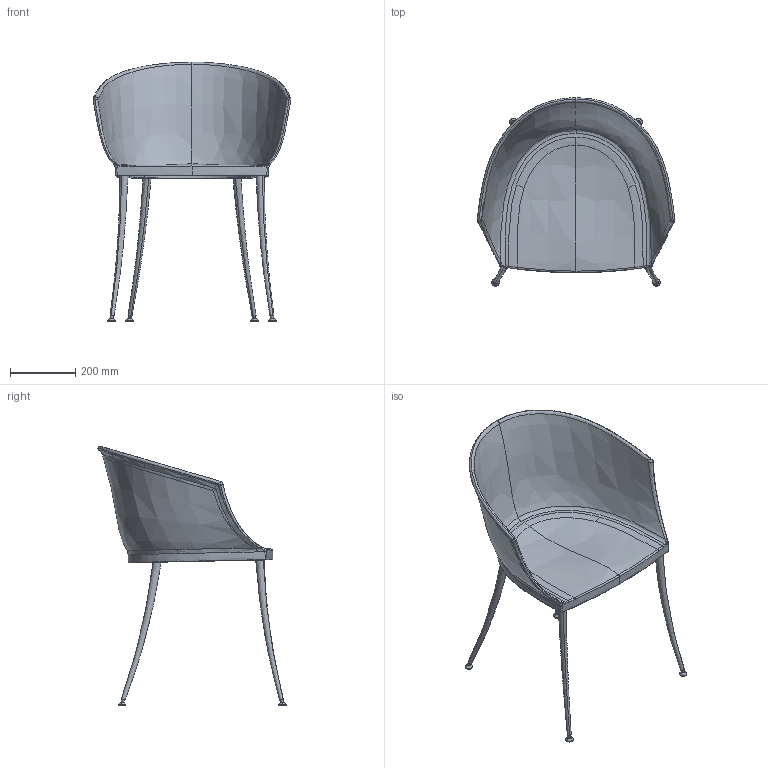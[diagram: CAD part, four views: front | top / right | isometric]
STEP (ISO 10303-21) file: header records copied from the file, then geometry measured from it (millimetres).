
FILE_DESCRIPTION(/* description */ (''),/* implementation_level */ '2;1');
FILE_NAME(/* name */ '4650 - Dandy',/* time_stamp */ '2010-11-04T17:26:55+01:00',/* author */ (''),/* organization */ (''),/* preprocessor_version */ 'ST-DEVELOPER v10',/* originating_system */ '',/* authorisation */ '');
FILE_SCHEMA (('CONFIG_CONTROL_DESIGN'));
Length unit declared in the file: centimetre
Products named in the file (1): 1
Bounding box: 605.68 x 575.85 x 794.51 mm (x, y, z)
Volume: 4977725.9 mm3; surface area: 1285174.4 mm2
Topology: 6 solids, 6 shells, 192 faces, 440 edges, 269 vertices
Faces by surface type: bspline 162, plane 30
Entity records: 18442 total; most frequent: CARTESIAN_POINT 15677, ORIENTED_EDGE 872, EDGE_CURVE 436, B_SPLINE_CURVE_WITH_KNOTS 288, VERTEX_POINT 269, EDGE_LOOP 207, ADVANCED_FACE 192, FACE_OUTER_BOUND 192
